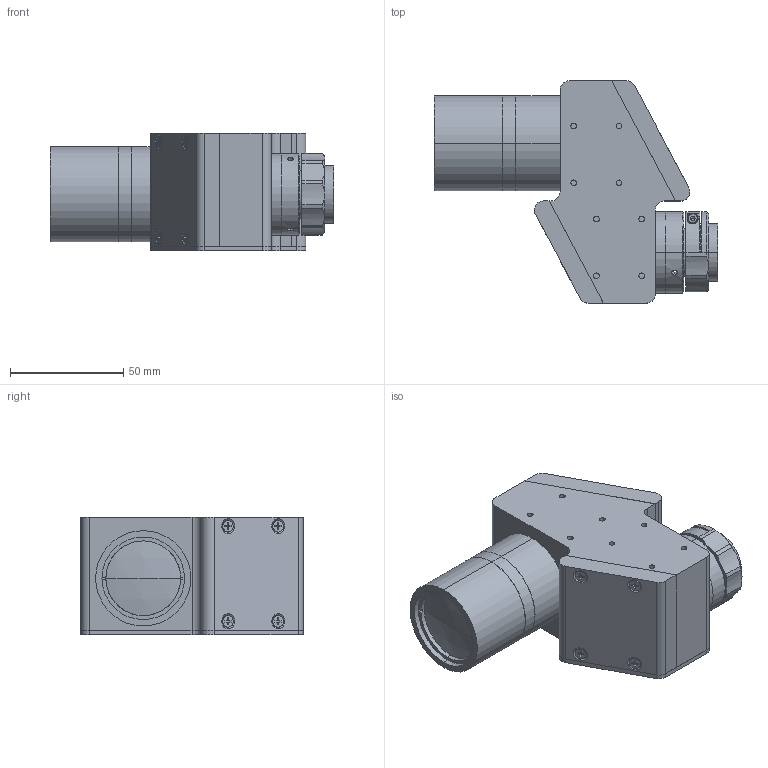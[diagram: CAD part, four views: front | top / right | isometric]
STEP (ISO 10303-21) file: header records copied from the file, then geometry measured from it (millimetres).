
FILE_DESCRIPTION (( 'STEP AP203' ), '1' );
FILE_NAME ('XF-MH02X932.STEP', '2020-08-24T07:17:25', ( 'canrill-02' ), ( '' ), 'SwSTEP 2.0', 'SolidWorks 2014', '' );
FILE_SCHEMA (( 'CONFIG_CONTROL_DESIGN' ));
Length unit declared in the file: millimetre
Products named in the file (1): XF-MH02X932
Bounding box: 124.97 x 98 x 52 mm (x, y, z)
Surface area: 41789.1 mm2 (no closed solid volume)
Topology: 0 solids, 30 shells, 426 faces, 1303 edges, 889 vertices
Faces by surface type: plane 225, cylinder 158, cone 39, sphere 2, torus 2
Entity records: 14878 total; most frequent: CARTESIAN_POINT 2938, DIRECTION 2577, ORIENTED_EDGE 2223, EDGE_CURVE 1301, VERTEX_POINT 889, AXIS2_PLACEMENT_3D 872, LINE 833, VECTOR 833
